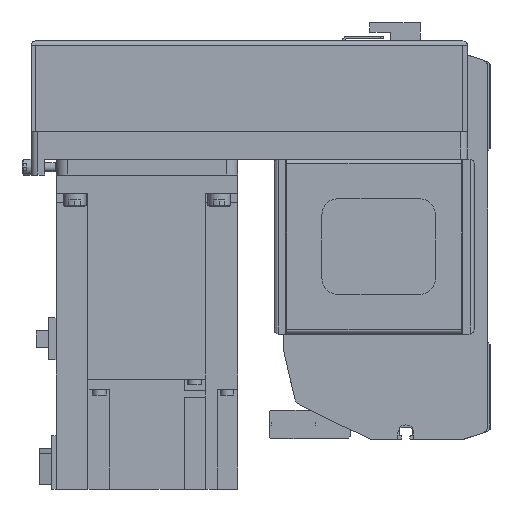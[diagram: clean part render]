
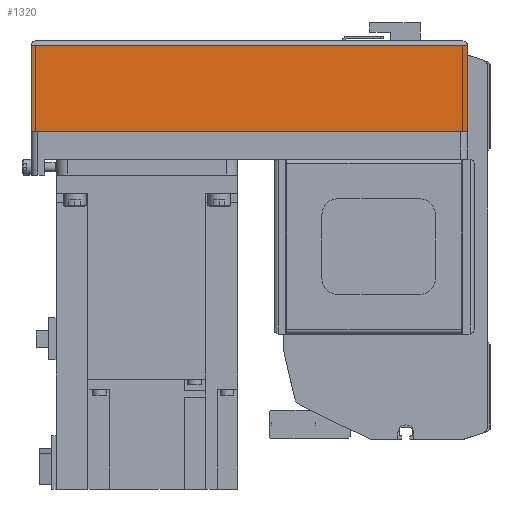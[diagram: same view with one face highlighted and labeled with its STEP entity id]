
A CAD part, left-side view. The second image highlights one B-rep face of the part: STEP entity #1320.
In plain terms, the highlighted planar face has unit normal (-1, 0, 0) as drawn and (0, 1, 0) by its records, which use the part's own axes.
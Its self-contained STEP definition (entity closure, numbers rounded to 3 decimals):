
#1320 = ADVANCED_FACE( '', ( #3489 ), #3490, .T. );
#3489 = FACE_OUTER_BOUND( '', #6797, .T. );
#3490 = PLANE( '', #6798 );
#6797 = EDGE_LOOP( '', ( #10573, #10574, #10575, #10576 ) );
#6798 = AXIS2_PLACEMENT_3D( '', #10577, #10578, #10579 );
#10573 = ORIENTED_EDGE( '', *, *, #19052, .F. );
#10574 = ORIENTED_EDGE( '', *, *, #19316, .F. );
#10575 = ORIENTED_EDGE( '', *, *, #19317, .T. );
#10576 = ORIENTED_EDGE( '', *, *, #19318, .T. );
#10577 = CARTESIAN_POINT( '', ( -192., 40., -50. ) );
#10578 = DIRECTION( '', ( 0., 1., 0. ) );
#10579 = DIRECTION( '', ( 0., 0., 1. ) );
#19052 = EDGE_CURVE( '', #22707, #22709, #22710, .T. );
#19316 = EDGE_CURVE( '', #23190, #22707, #23191, .T. );
#19317 = EDGE_CURVE( '', #23190, #23192, #23193, .T. );
#19318 = EDGE_CURVE( '', #23192, #22709, #23194, .T. );
#22707 = VERTEX_POINT( '', #28028 );
#22709 = VERTEX_POINT( '', #28031 );
#22710 = LINE( '', #28032, #28033 );
#23190 = VERTEX_POINT( '', #28666 );
#23191 = LINE( '', #28667, #28668 );
#23192 = VERTEX_POINT( '', #28669 );
#23193 = LINE( '', #28670, #28671 );
#23194 = LINE( '', #28672, #28673 );
#28028 = CARTESIAN_POINT( '', ( 0., 40., -50. ) );
#28031 = CARTESIAN_POINT( '', ( 0., 40., -12.1 ) );
#28032 = CARTESIAN_POINT( '', ( 0., 40., -50. ) );
#28033 = VECTOR( '', #35452, 1000. );
#28666 = CARTESIAN_POINT( '', ( -192., 40., -50. ) );
#28667 = CARTESIAN_POINT( '', ( -192., 40., -50. ) );
#28668 = VECTOR( '', #35863, 1000. );
#28669 = CARTESIAN_POINT( '', ( -192., 40., -12.1 ) );
#28670 = CARTESIAN_POINT( '', ( -192., 40., -50. ) );
#28671 = VECTOR( '', #35864, 1000. );
#28672 = CARTESIAN_POINT( '', ( -192., 40., -12.1 ) );
#28673 = VECTOR( '', #35865, 1000. );
#35452 = DIRECTION( '', ( 0., 0., 1. ) );
#35863 = DIRECTION( '', ( 1., 0., 0. ) );
#35864 = DIRECTION( '', ( 0., 0., 1. ) );
#35865 = DIRECTION( '', ( 1., 0., 0. ) );
